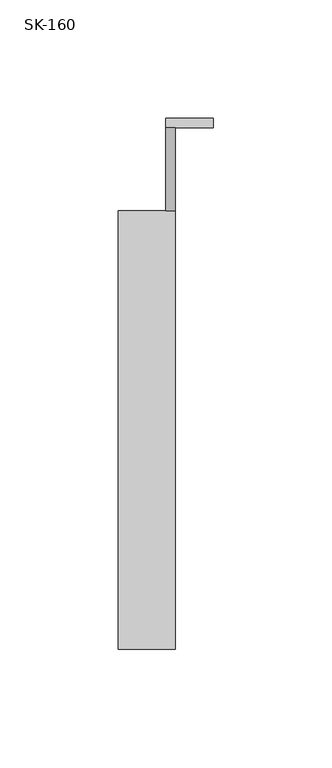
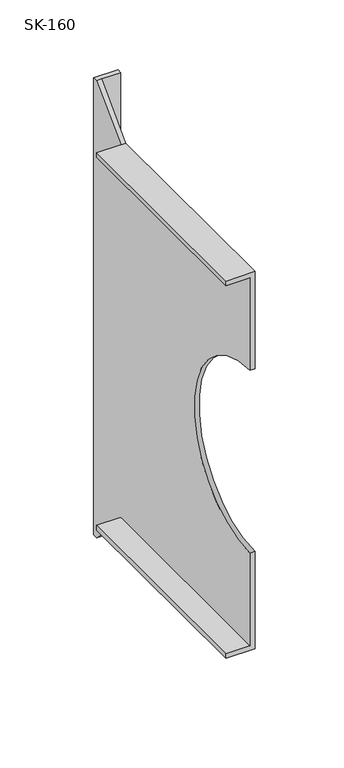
"""IFC4 building model written with IfcOpenShell, lengths in millimetres: duct fitting geometry, СВ_Кронштейн_Круглый_DN100-315_SK : SK-160."""

from ifc_helpers import new_model, si_unit, frame, origin, place, context, project, spatial, polyline, circle_curve, source, transform, mapped, element, save
from ifc_brep_helpers import plane_surface, revolved_surface, advanced_brep


def sk_160_8e51cf89(model_context):
    return source(origin(), model_context, "Body", "AdvancedBrep", [
        advanced_brep(
        [(4.0, 220.0, 200.0), (4.0, 185.0, 165.0), (4.0, 0.0, 165.0), (4.0, 0.0, 80.0), (4.0, 0.0, -80.0), (4.0, 0.0, -165.0), (4.0, 185.0, -165.0), (4.0, 220.0, -200.0), (0.0, 220.0, -200.0), (0.0, 185.0, -165.0), (0.0, 185.0, -161.0), (0.0, 0.0, -161.0), (0.0, 0.0, -80.0), (0.0, 0.0, 80.0), (0.0, 0.0, 161.0), (0.0, 185.0, 161.0), (0.0, 185.0, 165.0), (0.0, 220.0, 200.0), (0.0, 224.0, 200.0), (0.0, 224.0, -200.0), (-20.0, 185.0, 165.0), (-20.0, 0.0, 165.0), (-20.0, 0.0, 161.0), (-20.0, 0.0, -161.0), (-20.0, 0.0, -165.0), (-20.0, 185.0, -165.0), (-20.0, 185.0, -161.0), (-20.0, 185.0, 161.0), (20.0, 220.0, -200.0), (20.0, 224.0, -200.0), (20.0, 224.0, 200.0), (20.0, 220.0, 200.0)],
        [
            (0, 1),
            (1, 2),
            (2, 3),
            (3, 4, circle_curve(frame((4.0, 0.0, 0.0), z_axis=(-1.0, 0.0, 0.0), x_axis=(0.0, 1.0, 0.0)), 80.0)),
            (4, 5),
            (5, 6),
            (6, 7),
            (7, 0),
            (8, 9),
            (9, 10),
            (10, 11),
            (11, 12),
            (12, 13, circle_curve(frame((0.0, 0.0, 0.0), z_axis=(1.0, 0.0, 0.0), x_axis=(0.0, 1.0, 0.0)), 80.0)),
            (13, 14),
            (14, 15),
            (15, 16),
            (16, 17),
            (17, 18),
            (18, 19),
            (19, 8),
            (0, 17),
            (16, 1),
            (16, 20),
            (20, 21),
            (21, 2),
            (21, 22),
            (22, 14),
            (13, 3),
            (12, 4),
            (11, 23),
            (23, 24),
            (24, 5),
            (24, 25),
            (25, 9),
            (9, 6),
            (8, 7),
            (23, 26),
            (26, 25),
            (27, 22),
            (20, 27),
            (15, 27),
            (26, 10),
            (28, 29),
            (29, 30),
            (30, 31),
            (31, 28),
            (19, 29),
            (28, 7),
            (18, 30),
            (0, 31),
        ],
        [
            plane_surface(frame((4.0, 220.0, 200.0), z_axis=(1.0, 0.0, 0.0), x_axis=(0.0, 0.0, 1.0))),
            plane_surface(frame((0.0, 220.0, 200.0), z_axis=(-1.0, 0.0, 0.0), x_axis=(0.0, 0.0, -1.0))),
            plane_surface(frame((4.0, 220.0, 200.0), z_axis=(0.0, -0.7071067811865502, 0.7071067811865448), x_axis=(-1.0, 0.0, 0.0))),
            plane_surface(frame((4.0, 185.0, 165.0), z_axis=(0.0, 0.0, 1.0), x_axis=(-1.0, 0.0, 0.0))),
            plane_surface(frame((4.0, 0.0, 165.0), z_axis=(0.0, -1.0, 0.0), x_axis=(-1.0, 0.0, 0.0))),
            revolved_surface(polyline([(0.0, 80.0, 0.0), (4.0, 80.0, 0.0)]), (0.0, 0.0, 0.0), (-1.0, 0.0, 0.0)),
            plane_surface(frame((4.0, 0.0, -80.0), z_axis=(0.0, -1.0, 0.0), x_axis=(-1.0, 0.0, 0.0))),
            plane_surface(frame((4.0, 0.0, -165.0), z_axis=(0.0, 0.0, -1.0), x_axis=(-1.0, 0.0, 0.0))),
            plane_surface(frame((4.0, 185.0, -165.0), z_axis=(0.0, -0.7071067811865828, -0.7071067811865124), x_axis=(-1.0, 0.0, 0.0))),
            plane_surface(frame((-20.0, 185.0, 165.0), z_axis=(-1.0, 0.0, 0.0), x_axis=(0.0, 0.0, -1.0))),
            plane_surface(frame((0.0, 185.0, 161.0), z_axis=(0.0, 1.0, 0.0), x_axis=(-1.0, 0.0, 0.0))),
            plane_surface(frame((0.0, 0.0, 161.0), z_axis=(0.0, 0.0, -1.0), x_axis=(-1.0, 0.0, 0.0))),
            plane_surface(frame((0.0, 185.0, -165.0), z_axis=(0.0, 1.0, 0.0), x_axis=(-1.0, 0.0, 0.0))),
            plane_surface(frame((0.0, 185.0, -161.0), z_axis=(0.0, 0.0, 1.0), x_axis=(-1.0, 0.0, 0.0))),
            plane_surface(frame((20.0, 220.0, -200.0), z_axis=(1.0, 0.0, 0.0), x_axis=(0.0, 1.0, 0.0))),
            plane_surface(frame((20.0, 220.0, -200.0), z_axis=(0.0, 0.0, -1.0), x_axis=(-1.0, 0.0, 0.0))),
            plane_surface(frame((20.0, 224.0, -200.0), z_axis=(0.0, 1.0, 0.0), x_axis=(-1.0, 0.0, 0.0))),
            plane_surface(frame((20.0, 224.0, 200.0), z_axis=(0.0, 0.0, 1.0), x_axis=(-1.0, 0.0, 0.0))),
            plane_surface(frame((20.0, 220.0, 200.0), z_axis=(0.0, -1.0, 0.0), x_axis=(-1.0, 0.0, 0.0))),
        ],
        [
            (0, [[1, 2, 3, 4, 5, 6, 7, 8]]),
            (1, [[9, 10, 11, 12, 13, 14, 15, 16, 17, 18, 19, 20]]),
            (2, [[-1, 21, -17, 22]]),
            (3, [[-2, -22, 23, 24, 25]]),
            (4, [[-3, -25, 26, 27, -14, 28]]),
            (5, [[-4, -28, -13, 29]]),
            (6, [[-5, -29, -12, 30, 31, 32]]),
            (7, [[-6, -32, 33, 34, 35]]),
            (8, [[-7, -35, -9, 36]]),
            (9, [[-33, -31, 37, 38]]),
            (9, [[39, -26, -24, 40]]),
            (10, [[-40, -23, -16, 41]]),
            (11, [[-39, -41, -15, -27]]),
            (12, [[-38, 42, -10, -34]]),
            (13, [[-37, -30, -11, -42]]),
            (14, [[43, 44, 45, 46]]),
            (15, [[-20, 47, -43, 48, -36]]),
            (16, [[-19, 49, -44, -47]]),
            (17, [[-18, -21, 50, -45, -49]]),
            (18, [[-46, -50, -8, -48]]),
        ],
    ),
    ])


if __name__ == "__main__":
    model = new_model("IFC4")
    model_context = context("Model", 3, world=origin())
    ifc_project = project(units=[si_unit("LENGTHUNIT", "METRE", prefix="MILLI")], contexts=[model_context])
    site = spatial("IfcSite", under=ifc_project)
    building = spatial("IfcBuilding", under=site)
    placement = place(None, origin())
    sk_160_shape = sk_160_8e51cf89(model_context)
    element("IfcDuctFitting", 1, ObjectType="СВ_Кронштейн_Круглый_DN100-315_SK : SK-160", at=placement, inside=building, context=model_context, shape_type="MappedRepresentation", body=[
        mapped(sk_160_shape, transform((0.0, 0.0, 0.0), x_axis=(1.0, 0.0, 0.0), y_axis=(0.0, 1.0, 0.0), z_axis=(0.0, 0.0, 1.0))),
    ])
    save(model, "model.ifc")
